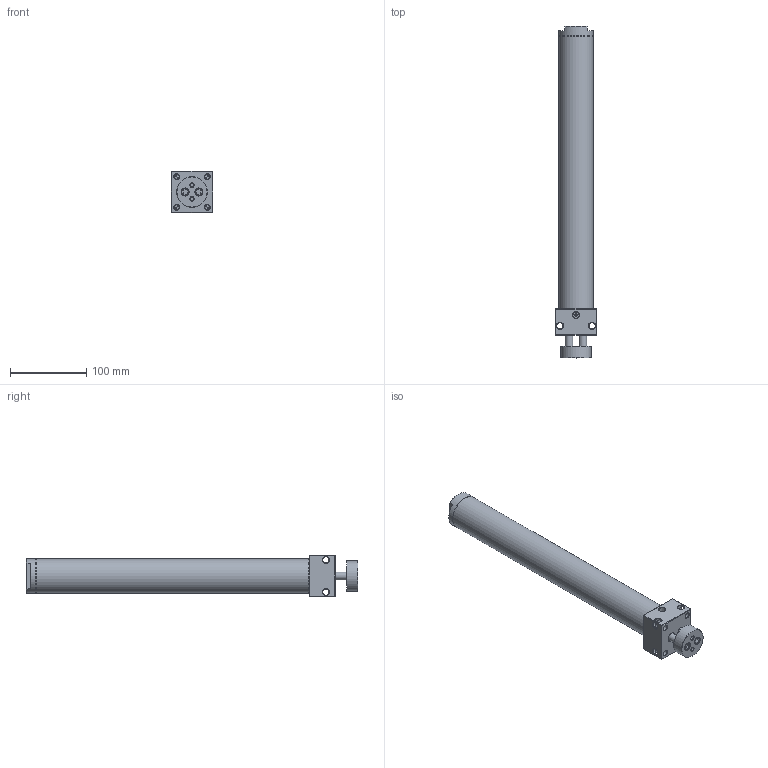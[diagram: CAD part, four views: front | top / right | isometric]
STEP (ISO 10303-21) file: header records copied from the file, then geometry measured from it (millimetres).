
FILE_DESCRIPTION((''),'2;1');
FILE_NAME('I:\3D電子目錄\氣缸\DBT\DBT\DBT40\DBT40x300.stp','2007-10-08T09:00:49',('Administrator'),(''),'Autodesk Inventor 2008','Autodesk Inventor 2008','');
FILE_SCHEMA(('AUTOMOTIVE_DESIGN { 1 0 10303 214 1 1 1 1 }'));
Length unit declared in the file: millimetre
Products named in the file (1): DBT40x300
Bounding box: 54 x 434 x 54 mm (x, y, z)
Volume: 263284.7 mm3; surface area: 134612.8 mm2
Topology: 5 solids, 5 shells, 164 faces, 360 edges, 215 vertices
Faces by surface type: plane 57, bspline 47, cone 37, cylinder 23
Full cylindrical faces by diameter (mm): 3 x1, 4.3 x1, 6 x1, 9.5 x1, 10 x4, 12 x1, 13 x1, 22 x1, 38.8 x2, 40 x2, 40.8 x2, 42 x2, 42.2 x2, 45 x2
Entity records: 4662 total; most frequent: CARTESIAN_POINT 1568, DIRECTION 604, ORIENTED_EDGE 500, EDGE_LOOP 300, AXIS2_PLACEMENT_3D 256, EDGE_CURVE 250, VERTEX_POINT 196, FACE_OUTER_BOUND 164
